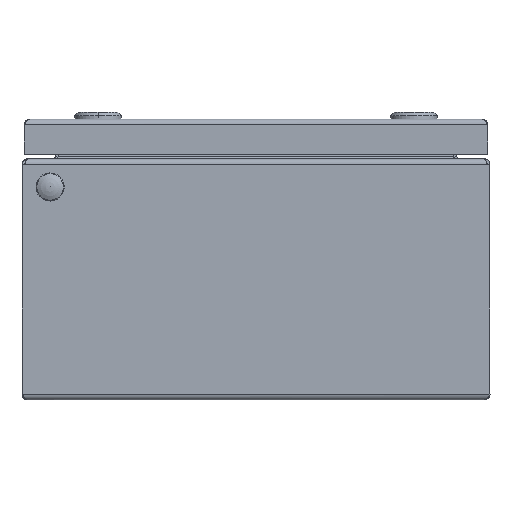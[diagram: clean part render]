
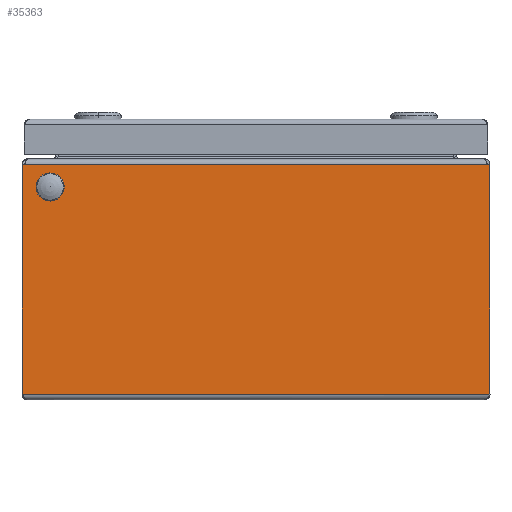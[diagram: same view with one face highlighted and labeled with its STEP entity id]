
A CAD part, front view. The second image highlights one B-rep face of the part: STEP entity #35363.
In plain terms, the highlighted planar face has unit normal (0, -1, 0).
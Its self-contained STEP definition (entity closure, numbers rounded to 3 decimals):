
#1278 = EDGE_CURVE ( 'NONE', #56789, #54896, #39806, .T. ) ;
#1965 = ORIENTED_EDGE ( 'NONE', *, *, #16455, .F. ) ;
#4033 = CARTESIAN_POINT ( 'NONE',  ( 98.623, -100., 100.6 ) ) ;
#4182 = CARTESIAN_POINT ( 'NONE',  ( 100., -100., 2.4 ) ) ;
#6760 = VECTOR ( 'NONE', #48395, 1000. ) ;
#7363 = VECTOR ( 'NONE', #69975, 1000. ) ;
#8100 = EDGE_LOOP ( 'NONE', ( #44118, #10452, #1965, #13020, #28918, #74752 ) ) ;
#8740 = ORIENTED_EDGE ( 'NONE', *, *, #73337, .F. ) ;
#9265 = CARTESIAN_POINT ( 'NONE',  ( -98.623, -100., 100.6 ) ) ;
#10396 = FACE_OUTER_BOUND ( 'NONE', #8100, .T. ) ;
#10452 = ORIENTED_EDGE ( 'NONE', *, *, #1278, .F. ) ;
#11798 = AXIS2_PLACEMENT_3D ( 'NONE', #87537, #19178, #47130 ) ;
#13020 = ORIENTED_EDGE ( 'NONE', *, *, #50740, .F. ) ;
#13446 = CARTESIAN_POINT ( 'NONE',  ( -88., -100., 86.35 ) ) ;
#16455 = EDGE_CURVE ( 'NONE', #52684, #56789, #78287, .T. ) ;
#16551 = EDGE_CURVE ( 'NONE', #22338, #41833, #44788, .T. ) ;
#16990 = DIRECTION ( 'NONE',  ( -1., 0., 0. ) ) ;
#18335 = VECTOR ( 'NONE', #16990, 1000. ) ;
#19178 = DIRECTION ( 'NONE',  ( 0., 1., 0. ) ) ;
#22338 = VERTEX_POINT ( 'NONE', #26483 ) ;
#22413 = EDGE_CURVE ( 'NONE', #41833, #54896, #83675, .T. ) ;
#23953 = CARTESIAN_POINT ( 'NONE',  ( -100., -100., 100.6 ) ) ;
#24207 = CARTESIAN_POINT ( 'NONE',  ( 100., -100., 100.6 ) ) ;
#26483 = CARTESIAN_POINT ( 'NONE',  ( 100., -100., 100.6 ) ) ;
#28570 = EDGE_CURVE ( 'NONE', #40112, #22338, #87378, .T. ) ;
#28918 = ORIENTED_EDGE ( 'NONE', *, *, #28570, .T. ) ;
#29012 = DIRECTION ( 'NONE',  ( -1., 0., 0. ) ) ;
#35363 = ADVANCED_FACE ( 'NONE', ( #44863, #10396 ), #45753, .F. ) ;
#36920 = AXIS2_PLACEMENT_3D ( 'NONE', #86885, #37183, #79925 ) ;
#37183 = DIRECTION ( 'NONE',  ( 0., -1., 0. ) ) ;
#37635 = DIRECTION ( 'NONE',  ( 0., 0., 1. ) ) ;
#38440 = CIRCLE ( 'NONE', #36920, 4.65 ) ;
#39806 = LINE ( 'NONE', #23953, #78713 ) ;
#40112 = VERTEX_POINT ( 'NONE', #4182 ) ;
#40271 = DIRECTION ( 'NONE',  ( 1., 0., 0. ) ) ;
#41766 = VECTOR ( 'NONE', #37635, 1000. ) ;
#41833 = VERTEX_POINT ( 'NONE', #4033 ) ;
#44118 = ORIENTED_EDGE ( 'NONE', *, *, #22413, .T. ) ;
#44309 = CARTESIAN_POINT ( 'NONE',  ( -100., -100., 100.6 ) ) ;
#44788 = LINE ( 'NONE', #24207, #57899 ) ;
#44863 = FACE_BOUND ( 'NONE', #84645, .T. ) ;
#45423 = LINE ( 'NONE', #54250, #18335 ) ;
#45580 = CARTESIAN_POINT ( 'NONE',  ( 100., -100., 2.4 ) ) ;
#45753 = PLANE ( 'NONE',  #11798 ) ;
#47130 = DIRECTION ( 'NONE',  ( 0., 0., -1. ) ) ;
#48395 = DIRECTION ( 'NONE',  ( -1., 0., 0. ) ) ;
#50740 = EDGE_CURVE ( 'NONE', #40112, #52684, #45423, .T. ) ;
#52684 = VERTEX_POINT ( 'NONE', #88739 ) ;
#54250 = CARTESIAN_POINT ( 'NONE',  ( 1100., -100., 2.4 ) ) ;
#54896 = VERTEX_POINT ( 'NONE', #9265 ) ;
#56789 = VERTEX_POINT ( 'NONE', #44309 ) ;
#57899 = VECTOR ( 'NONE', #29012, 1000. ) ;
#61889 = CARTESIAN_POINT ( 'NONE',  ( 1100., -100., 100.6 ) ) ;
#69546 = CARTESIAN_POINT ( 'NONE',  ( -100., -100., 2.4 ) ) ;
#69975 = DIRECTION ( 'NONE',  ( 0., 0., 1. ) ) ;
#73337 = EDGE_CURVE ( 'NONE', #77999, #77999, #38440, .T. ) ;
#74752 = ORIENTED_EDGE ( 'NONE', *, *, #16551, .T. ) ;
#77999 = VERTEX_POINT ( 'NONE', #13446 ) ;
#78287 = LINE ( 'NONE', #69546, #7363 ) ;
#78713 = VECTOR ( 'NONE', #40271, 1000. ) ;
#79925 = DIRECTION ( 'NONE',  ( 0., 0., -1. ) ) ;
#83675 = LINE ( 'NONE', #61889, #6760 ) ;
#84645 = EDGE_LOOP ( 'NONE', ( #8740 ) ) ;
#86885 = CARTESIAN_POINT ( 'NONE',  ( -88., -100., 91. ) ) ;
#87378 = LINE ( 'NONE', #45580, #41766 ) ;
#87537 = CARTESIAN_POINT ( 'NONE',  ( 1100., -100., 100.6 ) ) ;
#88739 = CARTESIAN_POINT ( 'NONE',  ( -100., -100., 2.4 ) ) ;
